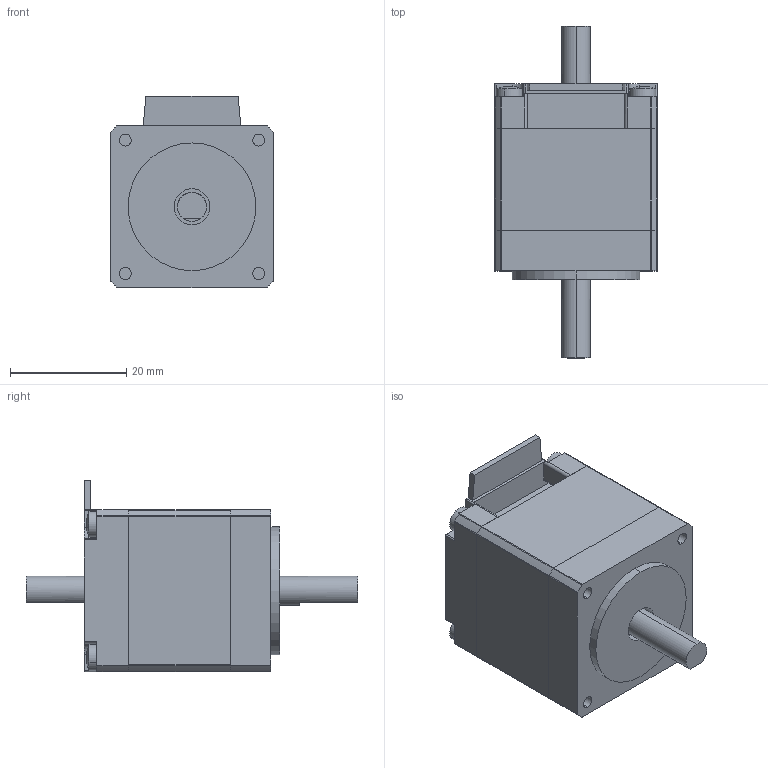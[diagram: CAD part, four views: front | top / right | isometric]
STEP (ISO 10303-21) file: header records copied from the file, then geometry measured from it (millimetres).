
FILE_DESCRIPTION (( 'STEP AP203' ), '1' );
FILE_NAME ('28CM005-D V3.0.STEP', '2026-09-09T01:52:15', ( 'YOS' ), ( 'MS' ), 'SwSTEP 2.0', 'SolidWorks 2023', '' );
FILE_SCHEMA (( 'CONFIG_CONTROL_DESIGN' ));
Length unit declared in the file: millimetre
Products named in the file (5): 后端盖（出轴L10）; 28五相定子-H17.5; 28CM005-D V3.0; M2.5X27十字槽盘头螺丝_GB_CROSS_SCREWS_TYPE3 M2.5X20-20-S; 前端盖DZ
Assembly tree (7 placements, depth 2):
  28CM005-D V3.0
    28五相定子-H17.5
    M2.5X27十字槽盘头螺丝_GB_CROSS_SCREWS_TYPE3 M2.5X20-20-S  x4
    后端盖（出轴L10）
    前端盖DZ
Bounding box: 27.96 x 57.2 x 33.06 mm (x, y, z)
Volume: 25082.1 mm3; surface area: 11719.2 mm2
Topology: 9 solids, 9 shells, 1853 faces, 3874 edges, 2044 vertices
Faces by surface type: cone 1080, cylinder 654, plane 111, sphere 8
Entity records: 16021 total; most frequent: DIRECTION 3006, CARTESIAN_POINT 2572, ORIENTED_EDGE 2504, EDGE_CURVE 1252, AXIS2_PLACEMENT_3D 1190, VERTEX_POINT 700, LINE 626, VECTOR 626
